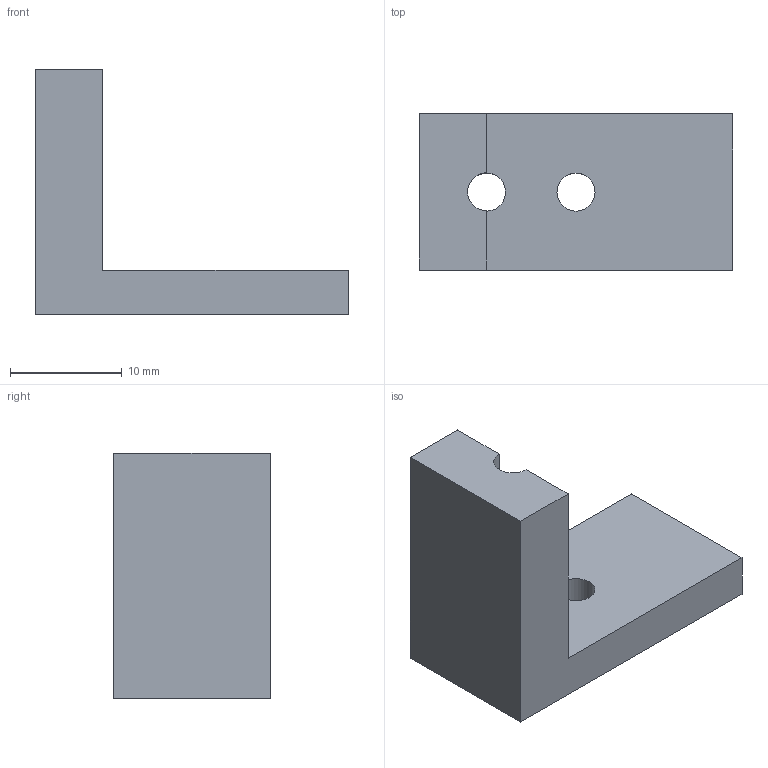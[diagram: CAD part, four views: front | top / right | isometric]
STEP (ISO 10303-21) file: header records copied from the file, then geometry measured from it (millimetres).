
FILE_DESCRIPTION(('Open CASCADE Model'),'2;1');
FILE_NAME('Open CASCADE Shape Model','2026-09-10T23:36:53',('Author'),( 'Open CASCADE'),'Open CASCADE STEP processor 7.9','Open CASCADE 7.9' ,'Unknown');
FILE_SCHEMA(('AUTOMOTIVE_DESIGN { 1 0 10303 214 1 1 1 1 }'));
Length unit declared in the file: millimetre
Products named in the file (1): Open CASCADE STEP translator 7.9 7
Bounding box: 28 x 14 x 22 mm (x, y, z)
Volume: 2898.9 mm3; surface area: 1945.3 mm2
Topology: 1 solids, 1 shells, 17 faces, 48 edges, 32 vertices
Faces by surface type: plane 14, cylinder 3
Full cylindrical faces by diameter (mm): 3.4 x2
Entity records: 1189 total; most frequent: CARTESIAN_POINT 260, DIRECTION 157, LINE 104, VECTOR 104, ORIENTED_EDGE 96, PCURVE 96, DEFINITIONAL_REPRESENTATION 96, EDGE_CURVE 48
